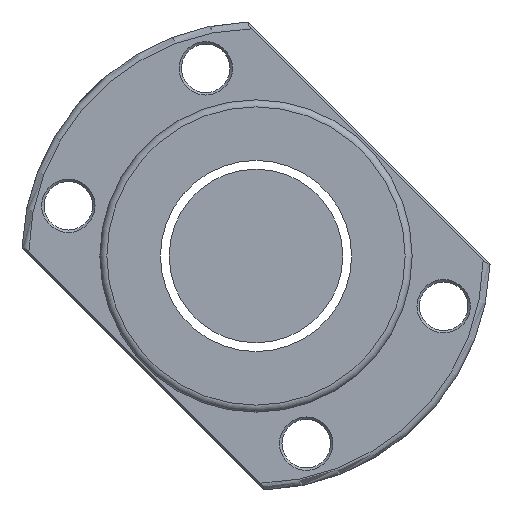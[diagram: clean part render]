
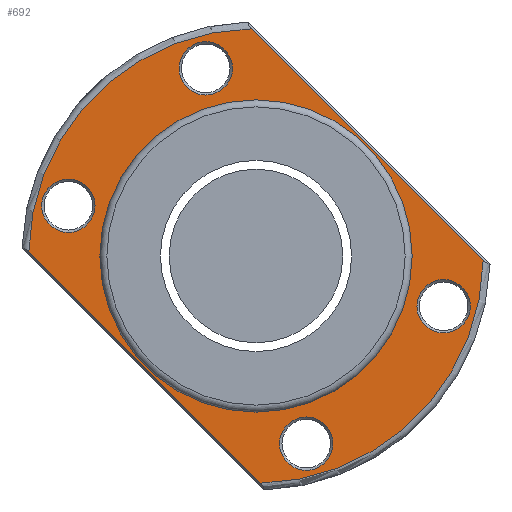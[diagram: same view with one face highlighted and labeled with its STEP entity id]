
A CAD part, left-side view. The second image highlights one B-rep face of the part: STEP entity #692.
In plain terms, the highlighted planar face has unit normal (-1, 0, 0).
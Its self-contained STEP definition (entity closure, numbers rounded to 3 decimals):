
#5 = EDGE_CURVE ( 'NONE', #271, #2477, #2622, .T. ) ;
#66 = VECTOR ( 'NONE', #1408, 1000. ) ;
#219 = DIRECTION ( 'NONE',  ( 0., 0., 1. ) ) ;
#271 = VERTEX_POINT ( 'NONE', #2814 ) ;
#275 = VERTEX_POINT ( 'NONE', #2583 ) ;
#277 = VECTOR ( 'NONE', #2384, 1000. ) ;
#302 = DIRECTION ( 'NONE',  ( 0., 0., -1. ) ) ;
#324 = CARTESIAN_POINT ( 'NONE',  ( -89.5, 67.5, 0. ) ) ;
#437 = DIRECTION ( 'NONE',  ( 0., 0., 1. ) ) ;
#459 = ORIENTED_EDGE ( 'NONE', *, *, #588, .T. ) ;
#467 = AXIS2_PLACEMENT_3D ( 'NONE', #724, #1430, #302 ) ;
#469 = DIRECTION ( 'NONE',  ( 1., 0., 0. ) ) ;
#492 = CARTESIAN_POINT ( 'NONE',  ( -89.5, 14.494, 61.792 ) ) ;
#519 = CARTESIAN_POINT ( 'NONE',  ( -89.5, 1.718, 65.782 ) ) ;
#555 = DIRECTION ( 'NONE',  ( 1., 0., 0. ) ) ;
#575 = DIRECTION ( 'NONE',  ( -1., 0., 0. ) ) ;
#578 = FACE_BOUND ( 'NONE', #1128, .T. ) ;
#588 = EDGE_CURVE ( 'NONE', #865, #865, #1781, .T. ) ;
#645 = ORIENTED_EDGE ( 'NONE', *, *, #1580, .T. ) ;
#692 = ADVANCED_FACE ( 'NONE', ( #1953, #2936, #789, #1722, #578, #2425 ), #2459, .T. ) ;
#712 = AXIS2_PLACEMENT_3D ( 'NONE', #801, #575, #1047 ) ;
#724 = CARTESIAN_POINT ( 'NONE',  ( -89.5, 0., 0. ) ) ;
#751 = AXIS2_PLACEMENT_3D ( 'NONE', #2641, #1390, #2320 ) ;
#774 = CARTESIAN_POINT ( 'NONE',  ( -89.5, -54.092, -14.494 ) ) ;
#789 = FACE_BOUND ( 'NONE', #1106, .T. ) ;
#801 = CARTESIAN_POINT ( 'NONE',  ( -89.5, 0., 0. ) ) ;
#809 = AXIS2_PLACEMENT_3D ( 'NONE', #2788, #469, #219 ) ;
#862 = ORIENTED_EDGE ( 'NONE', *, *, #5, .T. ) ;
#865 = VERTEX_POINT ( 'NONE', #1796 ) ;
#903 = DIRECTION ( 'NONE',  ( 1., 0., 0. ) ) ;
#906 = CIRCLE ( 'NONE', #2464, 7.7 ) ;
#997 = CARTESIAN_POINT ( 'NONE',  ( -89.5, 1.421, 65.485 ) ) ;
#1047 = DIRECTION ( 'NONE',  ( 0., 0., 1. ) ) ;
#1055 = AXIS2_PLACEMENT_3D ( 'NONE', #2511, #903, #437 ) ;
#1106 = EDGE_LOOP ( 'NONE', ( #459 ) ) ;
#1128 = EDGE_LOOP ( 'NONE', ( #2143 ) ) ;
#1143 = EDGE_CURVE ( 'NONE', #1857, #1562, #1652, .T. ) ;
#1216 = CARTESIAN_POINT ( 'NONE',  ( -89.5, -14.494, -46.392 ) ) ;
#1266 = DIRECTION ( 'NONE',  ( -1., 0., 0. ) ) ;
#1390 = DIRECTION ( 'NONE',  ( -1., 0., 0. ) ) ;
#1408 = DIRECTION ( 'NONE',  ( 0., -0.707, -0.707 ) ) ;
#1416 = VERTEX_POINT ( 'NONE', #2117 ) ;
#1430 = DIRECTION ( 'NONE',  ( 1., 0., 0. ) ) ;
#1448 = CARTESIAN_POINT ( 'NONE',  ( -89.5, 65.782, 1.718 ) ) ;
#1479 = ORIENTED_EDGE ( 'NONE', *, *, #2223, .T. ) ;
#1533 = CIRCLE ( 'NONE', #751, 65.5 ) ;
#1562 = VERTEX_POINT ( 'NONE', #2900 ) ;
#1580 = EDGE_CURVE ( 'NONE', #1562, #271, #2820, .T. ) ;
#1627 = ORIENTED_EDGE ( 'NONE', *, *, #2554, .T. ) ;
#1652 = LINE ( 'NONE', #1448, #66 ) ;
#1700 = CARTESIAN_POINT ( 'NONE',  ( -89.5, 14.494, 54.092 ) ) ;
#1722 = FACE_BOUND ( 'NONE', #2022, .T. ) ;
#1728 = ORIENTED_EDGE ( 'NONE', *, *, #1143, .T. ) ;
#1781 = CIRCLE ( 'NONE', #2619, 7.7 ) ;
#1793 = EDGE_LOOP ( 'NONE', ( #862, #2510, #1728, #645 ) ) ;
#1796 = CARTESIAN_POINT ( 'NONE',  ( -89.5, -54.092, -6.794 ) ) ;
#1833 = AXIS2_PLACEMENT_3D ( 'NONE', #324, #1266, #2921 ) ;
#1857 = VERTEX_POINT ( 'NONE', #2556 ) ;
#1930 = EDGE_CURVE ( 'NONE', #1416, #1416, #1935, .T. ) ;
#1935 = CIRCLE ( 'NONE', #467, 45. ) ;
#1953 = FACE_BOUND ( 'NONE', #2649, .T. ) ;
#1981 = CIRCLE ( 'NONE', #1055, 7.7 ) ;
#2022 = EDGE_LOOP ( 'NONE', ( #1627 ) ) ;
#2076 = DIRECTION ( 'NONE',  ( 0., 0., 1. ) ) ;
#2117 = CARTESIAN_POINT ( 'NONE',  ( -89.5, 0., -45. ) ) ;
#2143 = ORIENTED_EDGE ( 'NONE', *, *, #1930, .T. ) ;
#2223 = EDGE_CURVE ( 'NONE', #275, #275, #1981, .T. ) ;
#2227 = CIRCLE ( 'NONE', #809, 7.7 ) ;
#2231 = DIRECTION ( 'NONE',  ( 1., 0., 0. ) ) ;
#2320 = DIRECTION ( 'NONE',  ( 0., 0., 1. ) ) ;
#2384 = DIRECTION ( 'NONE',  ( 0., 0.707, 0.707 ) ) ;
#2395 = DIRECTION ( 'NONE',  ( 0., 0., 1. ) ) ;
#2425 = FACE_OUTER_BOUND ( 'NONE', #1793, .T. ) ;
#2436 = EDGE_CURVE ( 'NONE', #2626, #2626, #2227, .T. ) ;
#2459 = PLANE ( 'NONE',  #1833 ) ;
#2464 = AXIS2_PLACEMENT_3D ( 'NONE', #1700, #555, #2076 ) ;
#2477 = VERTEX_POINT ( 'NONE', #997 ) ;
#2500 = ORIENTED_EDGE ( 'NONE', *, *, #2436, .T. ) ;
#2510 = ORIENTED_EDGE ( 'NONE', *, *, #2597, .T. ) ;
#2511 = CARTESIAN_POINT ( 'NONE',  ( -89.5, 54.092, 14.494 ) ) ;
#2554 = EDGE_CURVE ( 'NONE', #2810, #2810, #906, .T. ) ;
#2556 = CARTESIAN_POINT ( 'NONE',  ( -89.5, 65.485, 1.421 ) ) ;
#2583 = CARTESIAN_POINT ( 'NONE',  ( -89.5, 54.092, 22.194 ) ) ;
#2597 = EDGE_CURVE ( 'NONE', #2477, #1857, #1533, .T. ) ;
#2619 = AXIS2_PLACEMENT_3D ( 'NONE', #774, #2231, #2395 ) ;
#2622 = LINE ( 'NONE', #519, #277 ) ;
#2626 = VERTEX_POINT ( 'NONE', #1216 ) ;
#2641 = CARTESIAN_POINT ( 'NONE',  ( -89.5, 0., 0. ) ) ;
#2649 = EDGE_LOOP ( 'NONE', ( #1479 ) ) ;
#2684 = EDGE_LOOP ( 'NONE', ( #2500 ) ) ;
#2788 = CARTESIAN_POINT ( 'NONE',  ( -89.5, -14.494, -54.092 ) ) ;
#2810 = VERTEX_POINT ( 'NONE', #492 ) ;
#2814 = CARTESIAN_POINT ( 'NONE',  ( -89.5, -65.485, -1.421 ) ) ;
#2820 = CIRCLE ( 'NONE', #712, 65.5 ) ;
#2900 = CARTESIAN_POINT ( 'NONE',  ( -89.5, -1.421, -65.485 ) ) ;
#2921 = DIRECTION ( 'NONE',  ( 0., 0., 1. ) ) ;
#2936 = FACE_BOUND ( 'NONE', #2684, .T. ) ;
